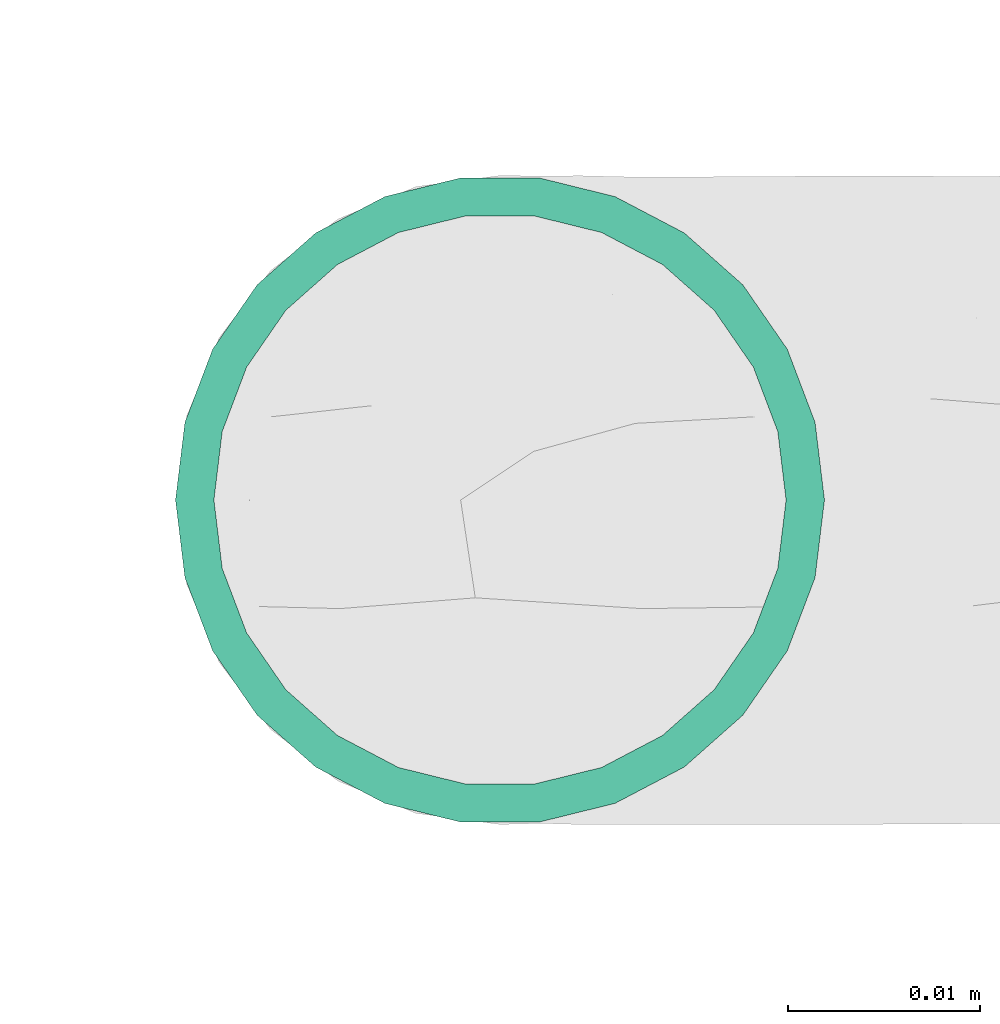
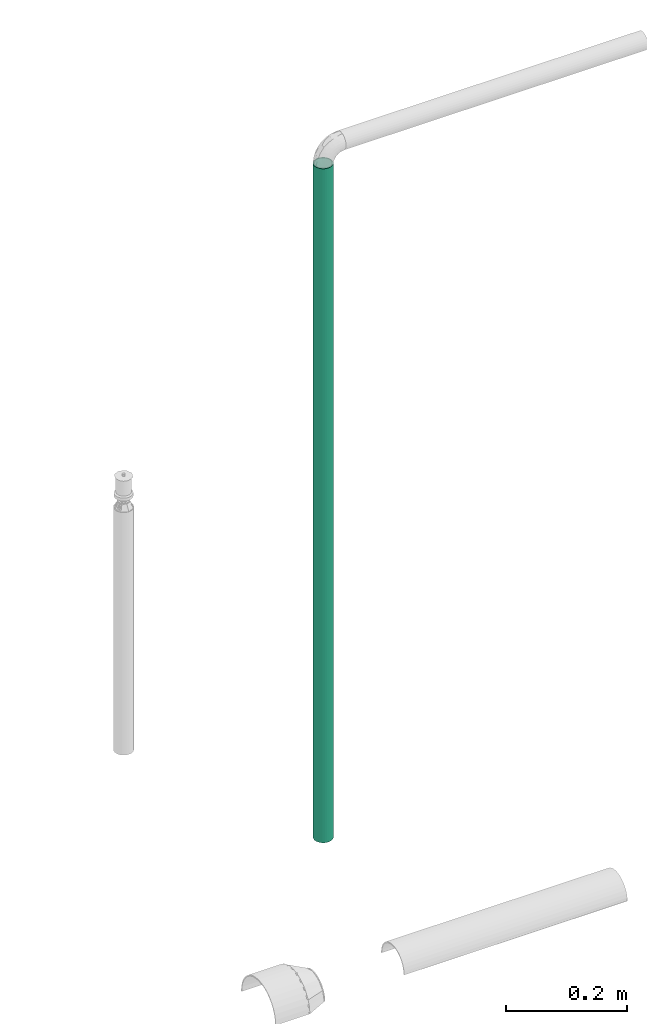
# One storey, part 2 of 63: 1 flow segment.
"""IFC2X3 building model written with IfcOpenShell, lengths in millimetres."""

from ifc_helpers import new_model, entity, si_unit, converted_unit, derived_unit, direction, frame, origin_with_axes, origin_2d_with_axis, place, context, subcontext, project, spatial, hollow_circle, extrude, source, transform, mapped, type_object, element, save


model = new_model("IFC2X3")

# Units and contexts
model_context = context("Model", 3, precision=0.01, world=frame((0.0, 4.29681676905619e-09, 0.0)), true_north=direction((4.01073788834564e-13, 1.0)))
plan_context = context("Plan", 3, precision=0.01, world=frame((0.0, 4.29681676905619e-09, 0.0)), true_north=direction((4.01073788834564e-13, 1.0)))
body_context = subcontext(model_context, "Body", "Model", "MODEL_VIEW")
ifc_project = project(units=[converted_unit("PLANEANGLEUNIT", "DEGREE", entity("IfcPositiveLengthMeasure", 0.0174532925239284), si_unit("PLANEANGLEUNIT", "RADIAN"), dimensions=[0, 0, 0, 0, 0, 0, 0]), si_unit("AREAUNIT", "SQUARE_METRE"), si_unit("LENGTHUNIT", "METRE", prefix="MILLI"), si_unit("MASSUNIT", "GRAM", prefix="KILO"), si_unit("POWERUNIT", "WATT"), si_unit("PRESSUREUNIT", "PASCAL", prefix="KILO"), si_unit("FORCEUNIT", "NEWTON", prefix="KILO"), si_unit("ELECTRICVOLTAGEUNIT", "VOLT"), si_unit("ELECTRICCURRENTUNIT", "AMPERE"), si_unit("THERMODYNAMICTEMPERATUREUNIT", "DEGREE_CELSIUS"), si_unit("TIMEUNIT", "SECOND"), si_unit("VOLUMEUNIT", "CUBIC_METRE"), derived_unit("LINEARVELOCITYUNIT", [(si_unit("LENGTHUNIT", "METRE"), 1), (si_unit("TIMEUNIT", "SECOND"), -1)]), derived_unit("VOLUMETRICFLOWRATEUNIT", [(si_unit("VOLUMEUNIT", "CUBIC_METRE"), 1), (si_unit("TIMEUNIT", "SECOND"), -1)]), derived_unit("THERMALTRANSMITTANCEUNIT", [(si_unit("POWERUNIT", "WATT"), 1), (si_unit("THERMODYNAMICTEMPERATUREUNIT", "KELVIN"), -1), (si_unit("AREAUNIT", "SQUARE_METRE"), -1)]), derived_unit("SOUNDPRESSUREUNIT", [(si_unit("PRESSUREUNIT", "PASCAL"), 1)])], contexts=[model_context, plan_context])

# Site, building, storey
site_placement = place(None, frame((0.0, -4.29681676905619e-09, 0.0), z_axis=(0.0, 0.0, 1.0), x_axis=(1.0, 0.0, 0.0)))
site = spatial("IfcSite", under=ifc_project, at=site_placement, CompositionType="ELEMENT")
building_placement = place(site_placement, frame((0.0, 4.29681676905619e-09, 0.0), z_axis=(0.0, 0.0, 1.0), x_axis=(1.0, 0.0, 0.0)))
building = spatial("IfcBuilding", under=site, at=building_placement, Name="mc-building", CompositionType="ELEMENT")
storey_placement = place(building_placement, frame((0.0, 0.0, 207370.0), z_axis=(0.0, 0.0, 1.0), x_axis=(1.0, 0.0, 0.0)))
storey = spatial("IfcBuildingStorey", under=building, at=storey_placement, Name="Nivå E", CompositionType="ELEMENT", Elevation=207370.0)

# Flow segment
pipe_segment_type = type_object("IfcPipeSegmentType", Name="Stålrør normaltykke", PredefinedType="RIGIDSEGMENT")
shared_shape = source(origin_with_axes(), body_context, "Body", "SweptSolid", [
    extrude(hollow_circle(Radius=16.9, WallThickness=2.0, at=origin_2d_with_axis()), frame((0.0, 0.0, 0.0), z_axis=(1.0, 0.0, 0.0), x_axis=(0.0, 1.0, 0.0)), (0.0, 0.0, 1.0), 1356.8),
])
flow_segment_placement = place(storey_placement, frame((726580.0, 438982.74228, 5639.35200000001), z_axis=(0.0, 1.0, 0.0), x_axis=(0.0, 0.0, 1.0)))
element("IfcFlowSegment", 1, at=flow_segment_placement, inside=storey, type_object=pipe_segment_type, Name="Stålrør normaltykke", context=body_context, shape_type="MappedRepresentation", body=[
    mapped(shared_shape, transform((0.0, 0.0, 0.0), scale=1.0)),
])

save(model, "model.ifc")
